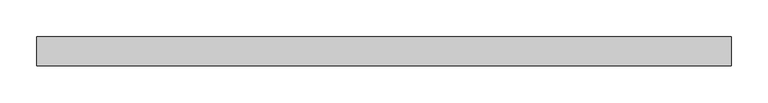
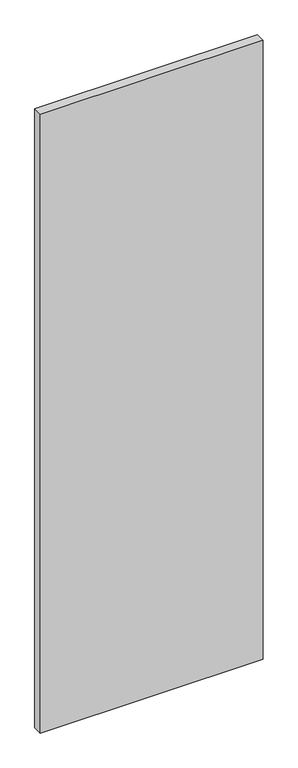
"""IFC4 building model written with IfcOpenShell, lengths in millimetres: plate geometry, Vitré."""

from ifc_helpers import new_model, si_unit, origin, origin_with_axes, place, context, project, spatial, polyline, outline, extrude, source, transform, mapped, element, save


def plate_4b1b1b9a(model_context):
    return source(origin(), model_context, "Body", "SweptSolid", [
        extrude(outline(polyline([(-475.0, -20.0), (-475.0, 20.0), (475.0, 20.0), (475.0, -20.0), (-475.0, -20.0)])), origin_with_axes(), (0.0, 0.0, 1.0), 2789.4970552),
    ])


if __name__ == "__main__":
    model = new_model("IFC4")
    model_context = context("Model", 3, world=origin())
    ifc_project = project(units=[si_unit("LENGTHUNIT", "METRE", prefix="MILLI")], contexts=[model_context])
    site = spatial("IfcSite", under=ifc_project)
    building = spatial("IfcBuilding", under=site)
    placement = place(None, origin())
    plate_shape = plate_4b1b1b9a(model_context)
    element("IfcPlate", 1, ObjectType="Vitré", at=placement, inside=building, context=model_context, shape_type="MappedRepresentation", body=[
        mapped(plate_shape, transform((0.0, 0.0, 0.0), x_axis=(1.0, 0.0, 0.0), y_axis=(0.0, 1.0, 0.0), z_axis=(0.0, 0.0, 1.0))),
    ])
    save(model, "model.ifc")
